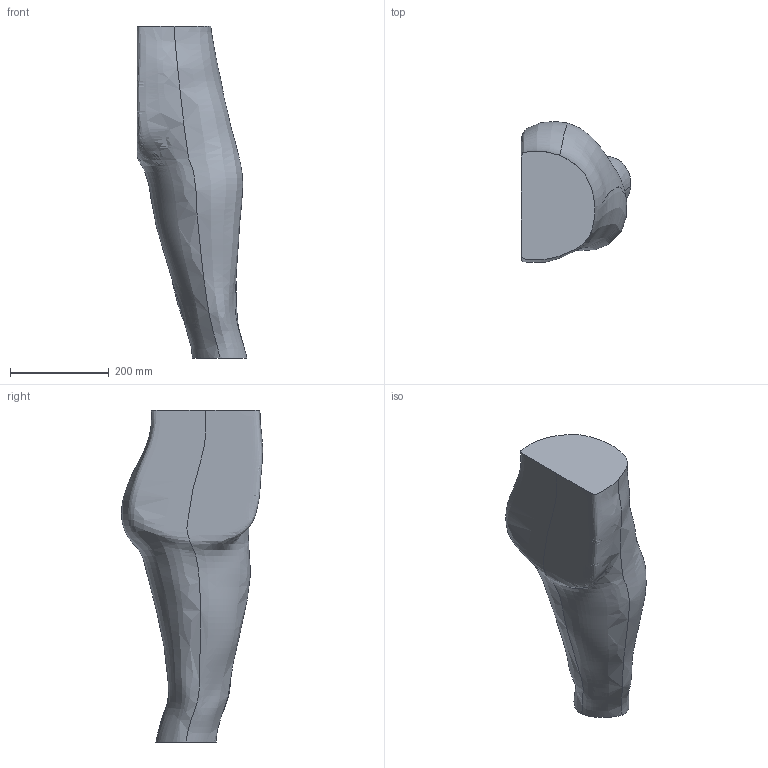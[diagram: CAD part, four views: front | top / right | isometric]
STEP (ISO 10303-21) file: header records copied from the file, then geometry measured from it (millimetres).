
FILE_DESCRIPTION(('Open CASCADE Model'),'2;1');
FILE_NAME('Open CASCADE Shape Model','2026-10-24T17:19:07',('Author'),( 'Open CASCADE'),'Open CASCADE STEP processor 7.8','Open CASCADE 7.8' ,'Unknown');
FILE_SCHEMA(('AUTOMOTIVE_DESIGN { 1 0 10303 214 1 1 1 1 }'));
Products named in the file (1): Open CASCADE STEP translator 7.8 3
Bounding box: 221.56 x 285.35 x 671.43 mm (x, y, z)
Volume: 16545455.4 mm3; surface area: 566111.3 mm2
Topology: 1 solids, 3 shells, 2790 faces, 5580 edges, 2794 vertices
Faces by surface type: bspline 2788, plane 2
Entity records: 192318 total; most frequent: CARTESIAN_POINT 99677, ORIENTED_EDGE 11160, PCURVE 11160, DEFINITIONAL_REPRESENTATION 11160, DIRECTION 8646, LINE 8640, VECTOR 8640, B_SPLINE_CURVE_WITH_KNOTS 8100
